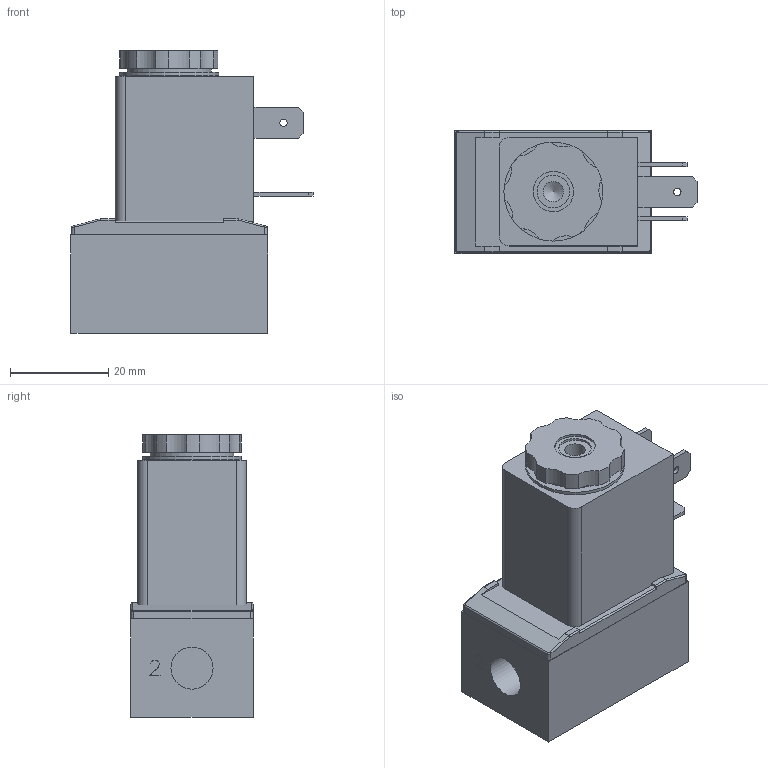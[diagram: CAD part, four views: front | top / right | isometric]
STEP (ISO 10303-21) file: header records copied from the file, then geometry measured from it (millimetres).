
FILE_DESCRIPTION (( 'STEP AP214' ), '1' );
FILE_NAME ('MSO-18-310-HN-412_Airtec.step', '2018-12-14T07:36:19', ( '' ), ( '' ), 'SwSTEP 2.0', 'SolidWorks 2010', '' );
FILE_SCHEMA (( 'AUTOMOTIVE_DESIGN' ));
Length unit declared in the file: millimetre
Products named in the file (3): Volumenkörper4; Volumenkörper1; MSO-18-310-HN-412_Airtec
Assembly tree (2 placements, depth 2):
  MSO-18-310-HN-412_Airtec
    Volumenkörper1
    Volumenkörper4
Bounding box: 49.2 x 25 x 57.45 mm (x, y, z)
Volume: 39617.5 mm3; surface area: 14664.1 mm2
Topology: 2 solids, 2 shells, 280 faces, 686 edges, 443 vertices
Faces by surface type: plane 173, cylinder 81, cone 13, bspline 6, sphere 4, torus 3
Full cylindrical faces by diameter (mm): 1.5 x3, 2.459 x1, 4.134 x5, 6.647 x1, 7.3 x4, 7.4 x4, 8 x1, 8.15 x1, 8.2 x1, 8.566 x2, 9.04 x2, 10.5 x1, 13.2 x1, 16 x2, 17.041 x1, 20.1 x1
Entity records: 9859 total; most frequent: CARTESIAN_POINT 1818, DIRECTION 1318, ORIENTED_EDGE 1268, EDGE_CURVE 634, AXIS2_PLACEMENT_3D 441, VERTEX_POINT 436, VECTOR 436, LINE 436
